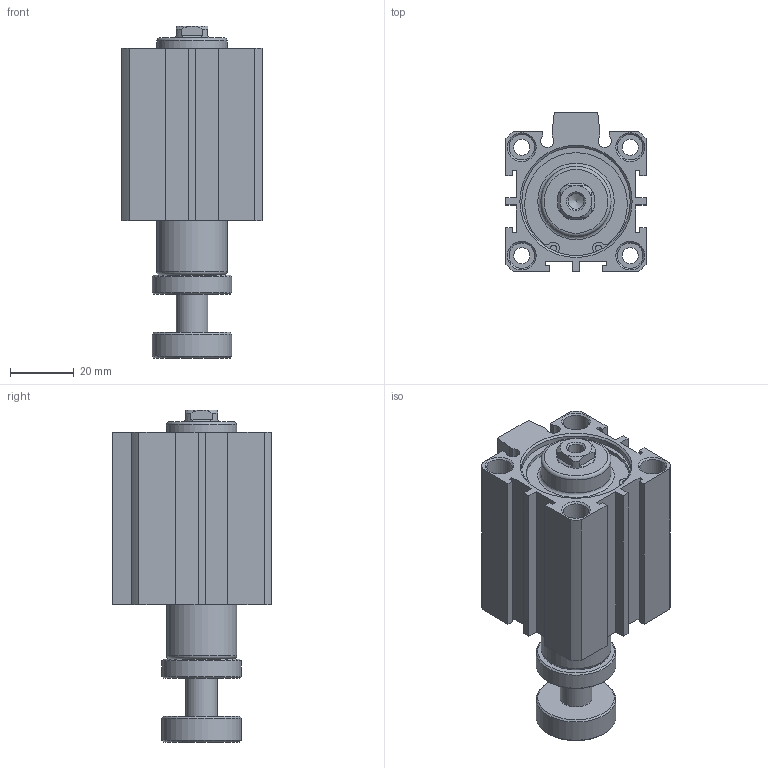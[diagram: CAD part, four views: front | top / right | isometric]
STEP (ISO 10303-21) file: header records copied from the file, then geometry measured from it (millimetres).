
FILE_DESCRIPTION((''),'2;1');
FILE_NAME('I:\3D電子目錄\氣缸\JDAR\JDAR\JDAR32\JDAR32x30.stp','2007-03-14T10:14:23',('662F206'),(''),'Autodesk Inventor 11','Autodesk Inventor 11','');
FILE_SCHEMA(('AUTOMOTIVE_DESIGN { 1 0 10303 214 1 1 1 1 }'));
Length unit declared in the file: millimetre
Products named in the file (3): JDAR32; R 形環 35
Assembly tree (3 placements, depth 2):
  JDAR32
    JDAR32
    R 形環 35  x2
Bounding box: 44 x 50 x 104.1 mm (x, y, z)
Volume: 103545.1 mm3; surface area: 29377.2 mm2
Topology: 3 solids, 3 shells, 170 faces, 399 edges, 259 vertices
Faces by surface type: plane 88, cylinder 51, cone 21, bspline 8, torus 2
Full cylindrical faces by diameter (mm): 1.9 x4, 2.2 x2, 5.1 x4, 8 x8, 10 x1, 22 x2, 25 x2, 34 x4, 36 x2
Entity records: 4435 total; most frequent: CARTESIAN_POINT 886, DIRECTION 740, ORIENTED_EDGE 622, EDGE_CURVE 311, AXIS2_PLACEMENT_3D 281, EDGE_LOOP 246, VERTEX_POINT 233, VECTOR 178
